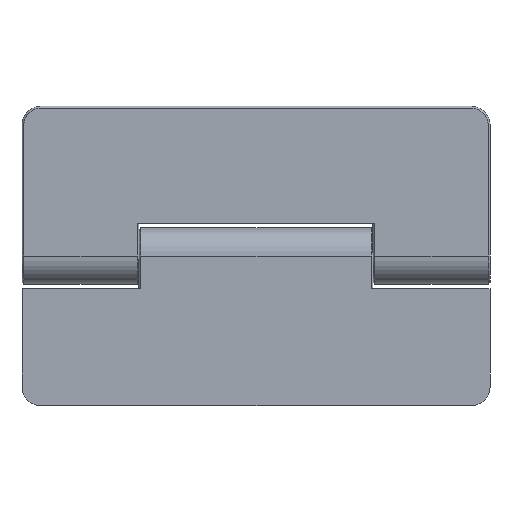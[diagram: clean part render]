
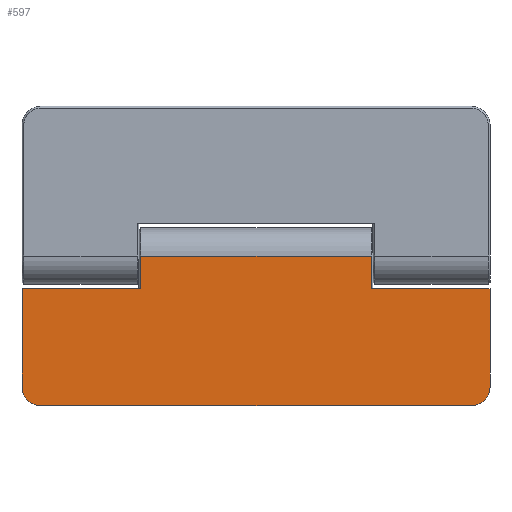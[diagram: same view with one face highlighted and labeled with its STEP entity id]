
A CAD part, front view. The second image highlights one B-rep face of the part: STEP entity #597.
In plain terms, the highlighted planar face has unit normal (0, -1, 0).
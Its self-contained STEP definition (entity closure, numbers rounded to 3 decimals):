
#85 = FACE_OUTER_BOUND ( 'NONE', #555, .T. ) ;
#97 = CARTESIAN_POINT ( 'NONE',  ( 23., -3., -14. ) ) ;
#123 = EDGE_CURVE ( 'NONE', #1719, #416, #463, .T. ) ;
#175 = EDGE_CURVE ( 'NONE', #702, #1531, #345, .T. ) ;
#211 = CARTESIAN_POINT ( 'NONE',  ( 25., -3., -14. ) ) ;
#214 = CARTESIAN_POINT ( 'NONE',  ( -23., -3., -14. ) ) ;
#234 = LINE ( 'NONE', #211, #1472 ) ;
#247 = CARTESIAN_POINT ( 'NONE',  ( -23., -3., -14. ) ) ;
#253 = ORIENTED_EDGE ( 'NONE', *, *, #1194, .F. ) ;
#276 = AXIS2_PLACEMENT_3D ( 'NONE', #97, #311, #1650 ) ;
#305 = EDGE_CURVE ( 'NONE', #1931, #434, #1576, .T. ) ;
#311 = DIRECTION ( 'NONE',  ( 0., 1., 0. ) ) ;
#345 = CIRCLE ( 'NONE', #1097, 2. ) ;
#346 = CARTESIAN_POINT ( 'NONE',  ( -12.3, -3., 0. ) ) ;
#406 = DIRECTION ( 'NONE',  ( 0., 0., -1. ) ) ;
#416 = VERTEX_POINT ( 'NONE', #714 ) ;
#423 = LINE ( 'NONE', #1353, #1562 ) ;
#429 = DIRECTION ( 'NONE',  ( 0., 0., -1. ) ) ;
#434 = VERTEX_POINT ( 'NONE', #2235 ) ;
#463 = LINE ( 'NONE', #1797, #1366 ) ;
#554 = ORIENTED_EDGE ( 'NONE', *, *, #1975, .F. ) ;
#555 = EDGE_LOOP ( 'NONE', ( #1349, #706, #1469, #1493, #737, #1348, #1884, #2234, #554, #253 ) ) ;
#597 = ADVANCED_FACE ( 'NONE', ( #85 ), #1367, .T. ) ;
#612 = DIRECTION ( 'NONE',  ( 0., 0., 1. ) ) ;
#694 = EDGE_CURVE ( 'NONE', #762, #416, #423, .T. ) ;
#699 = CARTESIAN_POINT ( 'NONE',  ( -23., -3., -16. ) ) ;
#702 = VERTEX_POINT ( 'NONE', #2487 ) ;
#706 = ORIENTED_EDGE ( 'NONE', *, *, #694, .T. ) ;
#714 = CARTESIAN_POINT ( 'NONE',  ( 12.3, -3., 0. ) ) ;
#737 = ORIENTED_EDGE ( 'NONE', *, *, #305, .F. ) ;
#762 = VERTEX_POINT ( 'NONE', #1122 ) ;
#781 = VECTOR ( 'NONE', #2400, 1000. ) ;
#816 = EDGE_CURVE ( 'NONE', #1248, #702, #2425, .T. ) ;
#880 = CARTESIAN_POINT ( 'NONE',  ( -25., -3., -3.5 ) ) ;
#1080 = EDGE_CURVE ( 'NONE', #1531, #1931, #1232, .T. ) ;
#1097 = AXIS2_PLACEMENT_3D ( 'NONE', #247, #1575, #429 ) ;
#1110 = VECTOR ( 'NONE', #2220, 1000. ) ;
#1122 = CARTESIAN_POINT ( 'NONE',  ( 12.3, -3., -3.5 ) ) ;
#1194 = EDGE_CURVE ( 'NONE', #2264, #2310, #234, .T. ) ;
#1232 = LINE ( 'NONE', #1561, #2124 ) ;
#1248 = VERTEX_POINT ( 'NONE', #1984 ) ;
#1276 = CARTESIAN_POINT ( 'NONE',  ( -25., -3., -14. ) ) ;
#1292 = DIRECTION ( 'NONE',  ( 1., 0., 0. ) ) ;
#1323 = VECTOR ( 'NONE', #1657, 1000. ) ;
#1348 = ORIENTED_EDGE ( 'NONE', *, *, #1080, .F. ) ;
#1349 = ORIENTED_EDGE ( 'NONE', *, *, #1900, .F. ) ;
#1353 = CARTESIAN_POINT ( 'NONE',  ( 12.3, -3., -14. ) ) ;
#1366 = VECTOR ( 'NONE', #1992, 1000. ) ;
#1367 = PLANE ( 'NONE',  #1452 ) ;
#1395 = EDGE_CURVE ( 'NONE', #1719, #434, #1795, .T. ) ;
#1452 = AXIS2_PLACEMENT_3D ( 'NONE', #214, #1564, #406 ) ;
#1469 = ORIENTED_EDGE ( 'NONE', *, *, #123, .F. ) ;
#1472 = VECTOR ( 'NONE', #1940, 1000. ) ;
#1493 = ORIENTED_EDGE ( 'NONE', *, *, #1395, .T. ) ;
#1531 = VERTEX_POINT ( 'NONE', #1276 ) ;
#1544 = CARTESIAN_POINT ( 'NONE',  ( 25., -3., -3.5 ) ) ;
#1561 = CARTESIAN_POINT ( 'NONE',  ( -25., -3., -3.5 ) ) ;
#1562 = VECTOR ( 'NONE', #2221, 1000. ) ;
#1564 = DIRECTION ( 'NONE',  ( 0., -1., 0. ) ) ;
#1575 = DIRECTION ( 'NONE',  ( 0., 1., 0. ) ) ;
#1576 = LINE ( 'NONE', #1875, #1908 ) ;
#1650 = DIRECTION ( 'NONE',  ( 0., 0., -1. ) ) ;
#1657 = DIRECTION ( 'NONE',  ( -1., 0., 0. ) ) ;
#1719 = VERTEX_POINT ( 'NONE', #346 ) ;
#1795 = LINE ( 'NONE', #1847, #1110 ) ;
#1797 = CARTESIAN_POINT ( 'NONE',  ( 12.5, -3., 0. ) ) ;
#1847 = CARTESIAN_POINT ( 'NONE',  ( -12.3, -3., -3.5 ) ) ;
#1875 = CARTESIAN_POINT ( 'NONE',  ( -12.5, -3., -3.5 ) ) ;
#1884 = ORIENTED_EDGE ( 'NONE', *, *, #175, .F. ) ;
#1900 = EDGE_CURVE ( 'NONE', #762, #2264, #2278, .T. ) ;
#1908 = VECTOR ( 'NONE', #1292, 1000. ) ;
#1931 = VERTEX_POINT ( 'NONE', #880 ) ;
#1940 = DIRECTION ( 'NONE',  ( 0., 0., -1. ) ) ;
#1949 = CARTESIAN_POINT ( 'NONE',  ( 25., -3., -3.5 ) ) ;
#1951 = CIRCLE ( 'NONE', #276, 2. ) ;
#1975 = EDGE_CURVE ( 'NONE', #2310, #1248, #1951, .T. ) ;
#1984 = CARTESIAN_POINT ( 'NONE',  ( 23., -3., -16. ) ) ;
#1992 = DIRECTION ( 'NONE',  ( 1., 0., 0. ) ) ;
#2093 = CARTESIAN_POINT ( 'NONE',  ( 25., -3., -14. ) ) ;
#2124 = VECTOR ( 'NONE', #612, 1000. ) ;
#2220 = DIRECTION ( 'NONE',  ( 0., 0., -1. ) ) ;
#2221 = DIRECTION ( 'NONE',  ( 0., 0., 1. ) ) ;
#2234 = ORIENTED_EDGE ( 'NONE', *, *, #816, .F. ) ;
#2235 = CARTESIAN_POINT ( 'NONE',  ( -12.3, -3., -3.5 ) ) ;
#2264 = VERTEX_POINT ( 'NONE', #1544 ) ;
#2278 = LINE ( 'NONE', #1949, #781 ) ;
#2310 = VERTEX_POINT ( 'NONE', #2093 ) ;
#2400 = DIRECTION ( 'NONE',  ( 1., 0., 0. ) ) ;
#2425 = LINE ( 'NONE', #699, #1323 ) ;
#2487 = CARTESIAN_POINT ( 'NONE',  ( -23., -3., -16. ) ) ;
